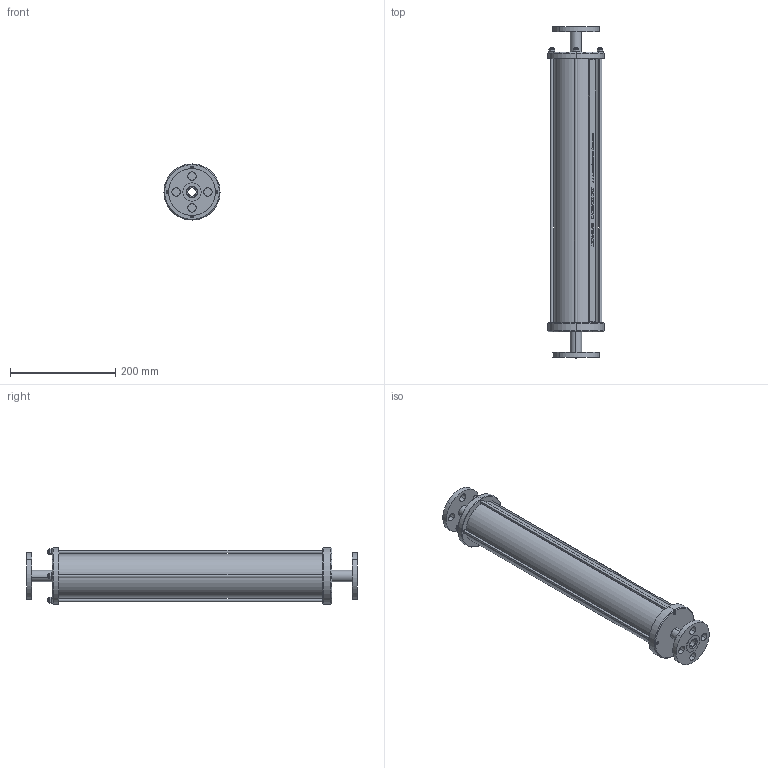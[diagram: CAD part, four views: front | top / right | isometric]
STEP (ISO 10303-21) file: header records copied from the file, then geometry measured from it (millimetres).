
FILE_DESCRIPTION (( 'STEP AP214' ), '1' );
FILE_NAME ('2.0LTR-C-44-34.STEP', '2025-11-05T15:45:20', ( '' ), ( '' ), 'SwSTEP 2.0', 'SolidWorks 2024', '' );
FILE_SCHEMA (( 'AUTOMOTIVE_DESIGN' ));
Length unit declared in the file: millimetre
Products named in the file (1): 2.0LTR-C-44-34
Bounding box: 107 x 632 x 107 mm (x, y, z)
Volume: 876692.9 mm3; surface area: 416540.5 mm2
Topology: 20 solids, 20 shells, 1498 faces, 3882 edges, 2504 vertices
Faces by surface type: cylinder 516, plane 463, bspline 343, cone 88, sphere 72, torus 16
Entity records: 106104 total; most frequent: CARTESIAN_POINT 57220, ORIENTED_EDGE 7764, DIRECTION 5220, EDGE_CURVE 3882, VERTEX_POINT 2504, LINE 1808, VECTOR 1808, AXIS2_PLACEMENT_3D 1706
